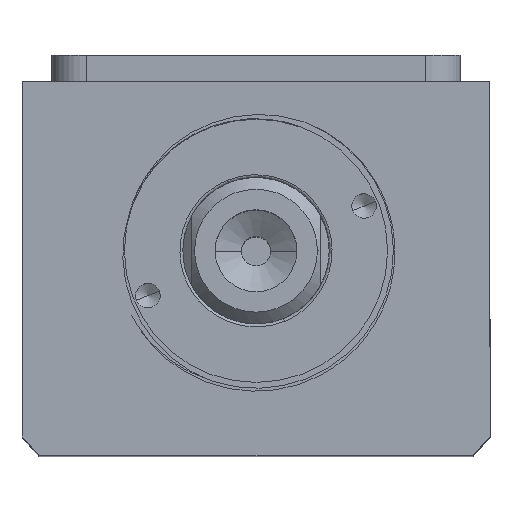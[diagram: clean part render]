
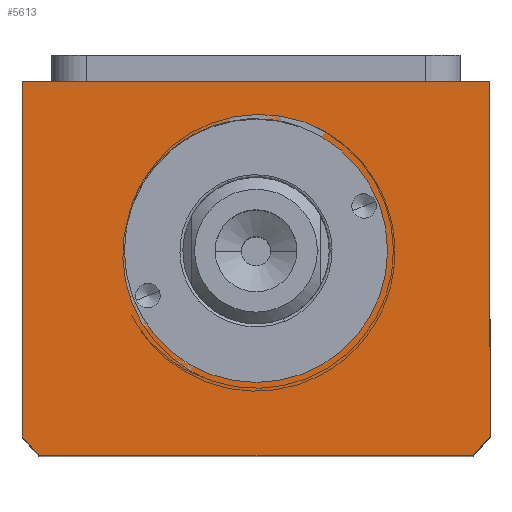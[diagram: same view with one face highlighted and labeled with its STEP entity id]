
A CAD part, top view. The second image highlights one B-rep face of the part: STEP entity #5613.
In plain terms, the highlighted planar face has unit normal (0, 0, 1).
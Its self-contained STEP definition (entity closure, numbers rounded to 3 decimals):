
#473 = LINE ( 'NONE', #4111, #8580 ) ;
#520 = DIRECTION ( 'NONE',  ( 0., -1., 0. ) ) ;
#697 = CARTESIAN_POINT ( 'NONE',  ( -40., -11.507, 120. ) ) ;
#797 = ORIENTED_EDGE ( 'NONE', *, *, #5372, .T. ) ;
#1014 = CARTESIAN_POINT ( 'NONE',  ( 0., -40.507, 120. ) ) ;
#1019 = AXIS2_PLACEMENT_3D ( 'NONE', #1014, #6483, #1795 ) ;
#1026 = CARTESIAN_POINT ( 'NONE',  ( -40., -75.507, 120. ) ) ;
#1085 = VECTOR ( 'NONE', #8076, 1000. ) ;
#1225 = FACE_OUTER_BOUND ( 'NONE', #9436, .T. ) ;
#1377 = AXIS2_PLACEMENT_3D ( 'NONE', #8343, #3644, #9131 ) ;
#1563 = VERTEX_POINT ( 'NONE', #2485 ) ;
#1773 = CARTESIAN_POINT ( 'NONE',  ( -40., -72.145, 120. ) ) ;
#1795 = DIRECTION ( 'NONE',  ( 1., 0., 0. ) ) ;
#1965 = CARTESIAN_POINT ( 'NONE',  ( 0., 0., 120. ) ) ;
#1997 = ORIENTED_EDGE ( 'NONE', *, *, #7419, .F. ) ;
#2209 = EDGE_CURVE ( 'NONE', #7793, #2445, #9943, .T. ) ;
#2445 = VERTEX_POINT ( 'NONE', #7467 ) ;
#2485 = CARTESIAN_POINT ( 'NONE',  ( 22.5, -40.507, 120. ) ) ;
#2677 = LINE ( 'NONE', #7002, #6347 ) ;
#2704 = CARTESIAN_POINT ( 'NONE',  ( 40., -72.145, 120. ) ) ;
#2812 = CARTESIAN_POINT ( 'NONE',  ( 0., -40.507, 120. ) ) ;
#2972 = CARTESIAN_POINT ( 'NONE',  ( -22.5, -40.507, 120. ) ) ;
#3201 = CARTESIAN_POINT ( 'NONE',  ( 40., -11.507, 120. ) ) ;
#3325 = EDGE_CURVE ( 'NONE', #1563, #6600, #9806, .T. ) ;
#3533 = PLANE ( 'NONE',  #8360 ) ;
#3589 = DIRECTION ( 'NONE',  ( 1., 0., 0. ) ) ;
#3644 = DIRECTION ( 'NONE',  ( 0., 0., 1. ) ) ;
#3736 = EDGE_CURVE ( 'NONE', #9384, #8938, #473, .T. ) ;
#3983 = CARTESIAN_POINT ( 'NONE',  ( 0., -40.507, 120. ) ) ;
#4111 = CARTESIAN_POINT ( 'NONE',  ( -40., -11.507, 120. ) ) ;
#4325 = DIRECTION ( 'NONE',  ( 1., 0., 0. ) ) ;
#4382 = ORIENTED_EDGE ( 'NONE', *, *, #3325, .F. ) ;
#4518 = EDGE_LOOP ( 'NONE', ( #4382, #1997 ) ) ;
#4703 = CARTESIAN_POINT ( 'NONE',  ( -37.094, -75.507, 120. ) ) ;
#4774 = DIRECTION ( 'NONE',  ( 1., 0., 0. ) ) ;
#5180 = EDGE_CURVE ( 'NONE', #5718, #7793, #8951, .T. ) ;
#5372 = EDGE_CURVE ( 'NONE', #8938, #8382, #6369, .T. ) ;
#5613 = ADVANCED_FACE ( 'NONE', ( #9317, #1225 ), #3533, .T. ) ;
#5718 = VERTEX_POINT ( 'NONE', #6754 ) ;
#6347 = VECTOR ( 'NONE', #7798, 1000. ) ;
#6369 = CIRCLE ( 'NONE', #1019, 51. ) ;
#6483 = DIRECTION ( 'NONE',  ( 0., 0., 1. ) ) ;
#6600 = VERTEX_POINT ( 'NONE', #2972 ) ;
#6754 = CARTESIAN_POINT ( 'NONE',  ( 37.094, -75.507, 120. ) ) ;
#6847 = ORIENTED_EDGE ( 'NONE', *, *, #7612, .T. ) ;
#7002 = CARTESIAN_POINT ( 'NONE',  ( -40., -11.507, 120. ) ) ;
#7186 = EDGE_CURVE ( 'NONE', #8382, #5718, #9430, .T. ) ;
#7419 = EDGE_CURVE ( 'NONE', #6600, #1563, #9175, .T. ) ;
#7467 = CARTESIAN_POINT ( 'NONE',  ( 40., -11.507, 120. ) ) ;
#7612 = EDGE_CURVE ( 'NONE', #2445, #9384, #2677, .T. ) ;
#7793 = VERTEX_POINT ( 'NONE', #2704 ) ;
#7798 = DIRECTION ( 'NONE',  ( -1., 0., 0. ) ) ;
#7866 = VECTOR ( 'NONE', #8685, 1000. ) ;
#8076 = DIRECTION ( 'NONE',  ( 1., 0., 0. ) ) ;
#8148 = ORIENTED_EDGE ( 'NONE', *, *, #7186, .T. ) ;
#8255 = ORIENTED_EDGE ( 'NONE', *, *, #3736, .T. ) ;
#8296 = DIRECTION ( 'NONE',  ( 0., 0., 1. ) ) ;
#8343 = CARTESIAN_POINT ( 'NONE',  ( 0., -40.507, 120. ) ) ;
#8360 = AXIS2_PLACEMENT_3D ( 'NONE', #1965, #9021, #4325 ) ;
#8382 = VERTEX_POINT ( 'NONE', #4703 ) ;
#8580 = VECTOR ( 'NONE', #520, 1000. ) ;
#8685 = DIRECTION ( 'NONE',  ( 0., 1., 0. ) ) ;
#8816 = AXIS2_PLACEMENT_3D ( 'NONE', #2812, #8296, #3589 ) ;
#8938 = VERTEX_POINT ( 'NONE', #1773 ) ;
#8951 = CIRCLE ( 'NONE', #9080, 51. ) ;
#9021 = DIRECTION ( 'NONE',  ( 0., 0., 1. ) ) ;
#9080 = AXIS2_PLACEMENT_3D ( 'NONE', #3983, #9480, #4774 ) ;
#9081 = ORIENTED_EDGE ( 'NONE', *, *, #5180, .T. ) ;
#9131 = DIRECTION ( 'NONE',  ( 1., 0., 0. ) ) ;
#9175 = CIRCLE ( 'NONE', #1377, 22.5 ) ;
#9317 = FACE_BOUND ( 'NONE', #4518, .T. ) ;
#9384 = VERTEX_POINT ( 'NONE', #697 ) ;
#9430 = LINE ( 'NONE', #1026, #1085 ) ;
#9436 = EDGE_LOOP ( 'NONE', ( #8255, #797, #8148, #9081, #9795, #6847 ) ) ;
#9480 = DIRECTION ( 'NONE',  ( 0., 0., 1. ) ) ;
#9795 = ORIENTED_EDGE ( 'NONE', *, *, #2209, .T. ) ;
#9806 = CIRCLE ( 'NONE', #8816, 22.5 ) ;
#9943 = LINE ( 'NONE', #3201, #7866 ) ;
